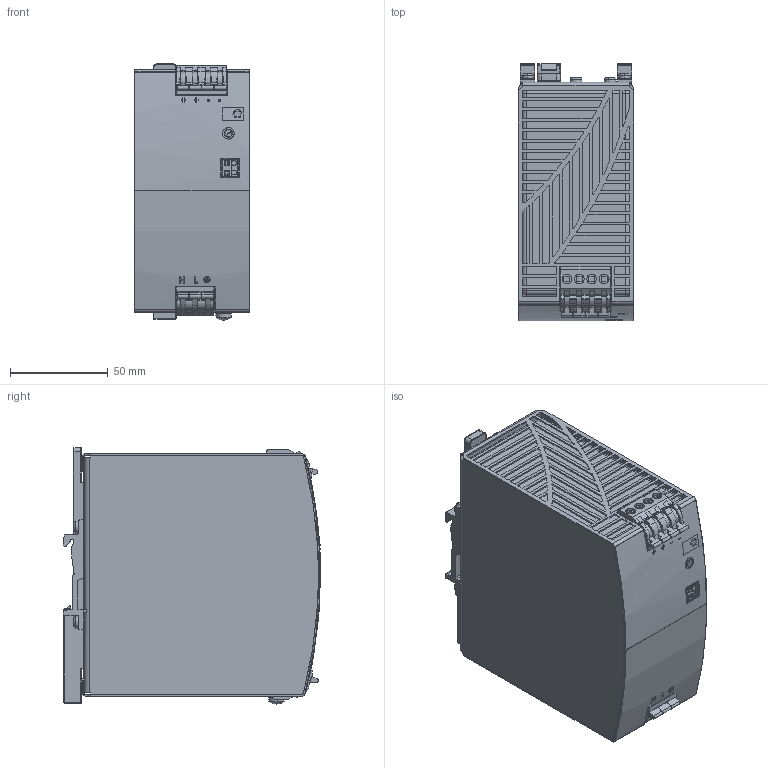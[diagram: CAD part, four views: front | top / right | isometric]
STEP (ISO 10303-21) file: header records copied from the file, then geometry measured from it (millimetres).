
FILE_DESCRIPTION (( 'STEP AP214' ), '1' );
FILE_NAME ('3D_PIC480.241D.STP', '2026-05-26T08:39:14', ( '' ), ( '' ), 'SwSTEP 2.0', 'SolidWorks 2024', '' );
FILE_SCHEMA (( 'AUTOMOTIVE_DESIGN' ));
Length unit declared in the file: millimetre
Products named in the file (15): 1044755_000_EW-434_991_99; 1041861_000; 1018322_000_Feat_Config; 1013463_000_Feat_Config; 1044806_000; 3D_PIC480.241D; 1018394_000_BRep_Config; 1044753_000_Feat_Config; 1018360_000_Feat_Config; 1018315_000_BRep_Config; 1043185_000_Feat_Config; 1044758_000_EL-434.940.71; 1018355_000_Feat_Config; 1018384_000_Feat_Config; 1018455_000_Feat_Config
Assembly tree (16 placements, depth 2):
  3D_PIC480.241D
    1044753_000_Feat_Config
    1018360_000_Feat_Config  x2
    1013463_000_Feat_Config
    1043185_000_Feat_Config
    1018355_000_Feat_Config
    1041861_000  x2
    1018394_000_BRep_Config
    1018384_000_Feat_Config
    1044755_000_EW-434_991_99
    1044758_000_EL-434.940.71
    1018322_000_Feat_Config
    1018315_000_BRep_Config
    1018455_000_Feat_Config
    1044806_000
Bounding box: 59 x 131.5 x 131.05 mm (x, y, z)
Volume: 814377.7 mm3; surface area: 182217.8 mm2
Topology: 16 solids, 16 shells, 1598 faces, 4490 edges, 2931 vertices
Faces by surface type: plane 909, cylinder 625, torus 20, cone 18, sphere 18, bspline 8
Entity records: 51507 total; most frequent: CARTESIAN_POINT 9502, DIRECTION 8598, ORIENTED_EDGE 8510, EDGE_CURVE 4255, VECTOR 2880, LINE 2880, AXIS2_PLACEMENT_3D 2859, VERTEX_POINT 2789
